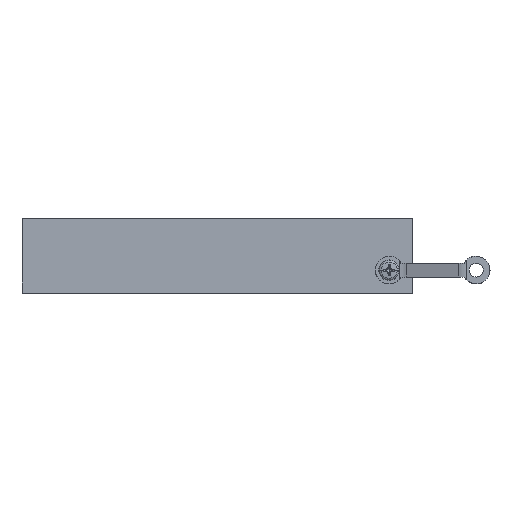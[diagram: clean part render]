
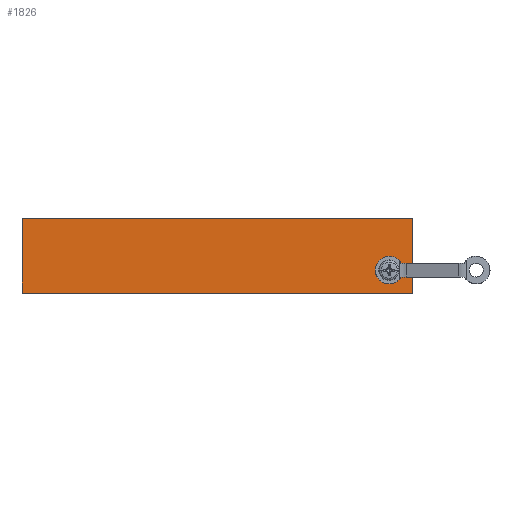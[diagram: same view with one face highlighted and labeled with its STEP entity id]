
A CAD part, top view. The second image highlights one B-rep face of the part: STEP entity #1826.
In plain terms, the highlighted planar face has unit normal (0, 0, 1).
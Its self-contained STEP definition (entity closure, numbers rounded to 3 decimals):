
#104=CARTESIAN_POINT('',(-70.,17.34,-2.5));
#105=DIRECTION('',(0.,0.,1.));
#106=DIRECTION('',(1.,0.,0.));
#107=AXIS2_PLACEMENT_3D('',#104,#105,#106);
#109=CARTESIAN_POINT('',(-70.,17.34,-2.5));
#110=DIRECTION('',(0.,0.,1.));
#111=DIRECTION('',(-1.,0.,0.));
#112=AXIS2_PLACEMENT_3D('',#109,#110,#111);
#114=DIRECTION('',(0.,-1.,0.));
#115=VECTOR('',#114,32.66);
#116=CARTESIAN_POINT('',(-60.,40.,-2.5));
#117=LINE('',#116,#115);
#118=DIRECTION('',(-1.,0.,0.));
#119=VECTOR('',#118,170.);
#120=CARTESIAN_POINT('',(-60.,7.34,-2.5));
#121=LINE('',#120,#119);
#754=DIRECTION('',(0.,-1.,0.));
#755=VECTOR('',#754,32.66);
#756=CARTESIAN_POINT('',(-230.,40.,-2.5));
#757=LINE('',#756,#755);
#862=DIRECTION('',(1.,0.,0.));
#863=VECTOR('',#862,170.);
#864=CARTESIAN_POINT('',(-230.,40.,-2.5));
#865=LINE('',#864,#863);
#1323=CARTESIAN_POINT('',(-230.,40.,-2.5));
#1325=VERTEX_POINT('',#1323);
#1327=CARTESIAN_POINT('',(-230.,7.34,-2.5));
#1329=VERTEX_POINT('',#1327);
#1534=CARTESIAN_POINT('',(-67.5,17.34,-2.5));
#1535=CARTESIAN_POINT('',(-72.5,17.34,-2.5));
#1536=VERTEX_POINT('',#1534);
#1537=VERTEX_POINT('',#1535);
#1570=CARTESIAN_POINT('',(-60.,40.,-2.5));
#1572=VERTEX_POINT('',#1570);
#1612=CARTESIAN_POINT('',(-60.,7.34,-2.5));
#1613=VERTEX_POINT('',#1612);
#1808=CARTESIAN_POINT('',(-230.,40.,-2.5));
#1809=DIRECTION('',(0.,0.,-1.));
#1810=DIRECTION('',(0.,-1.,0.));
#1811=AXIS2_PLACEMENT_3D('',#1808,#1809,#1810);
#1812=PLANE('',#1811);
#1813=ORIENTED_EDGE('',*,*,#1722,.T.);
#1815=ORIENTED_EDGE('',*,*,#1814,.T.);
#1817=ORIENTED_EDGE('',*,*,#1816,.F.);
#1819=ORIENTED_EDGE('',*,*,#1818,.T.);
#1820=EDGE_LOOP('',(#1813,#1815,#1817,#1819));
#1821=FACE_OUTER_BOUND('',#1820,.F.);
#1822=ORIENTED_EDGE('',*,*,#1788,.T.);
#1823=ORIENTED_EDGE('',*,*,#1802,.T.);
#1824=EDGE_LOOP('',(#1822,#1823));
#1825=FACE_BOUND('',#1824,.F.);
#1826=ADVANCED_FACE('',(#1821,#1825),#1812,.F.);
#108=CIRCLE('',#107,2.5);
#113=CIRCLE('',#112,2.5);
#1722=EDGE_CURVE('',#1572,#1613,#117,.T.);
#1788=EDGE_CURVE('',#1536,#1537,#108,.T.);
#1802=EDGE_CURVE('',#1537,#1536,#113,.T.);
#1814=EDGE_CURVE('',#1613,#1329,#121,.T.);
#1816=EDGE_CURVE('',#1325,#1329,#757,.T.);
#1818=EDGE_CURVE('',#1325,#1572,#865,.T.);
